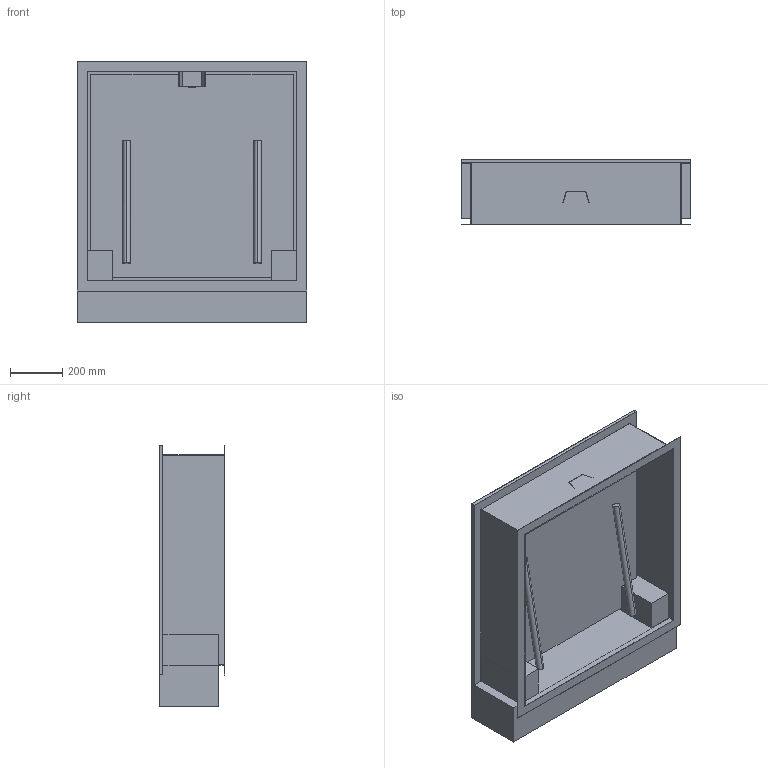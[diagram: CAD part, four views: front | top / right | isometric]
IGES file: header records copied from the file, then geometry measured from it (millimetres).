
Start section:  PTC IGES file: 51553732.igs
Global section: file name: 51553732.igs; native system: Creo Parametric by PTC Inc.; preprocessor: 2019224; author: hrl; organization: Unknown; date: 20201106.105341; units: millimetre
Bounding box: 878 x 250 x 1000 mm (x, y, z)
Surface area: 4220116.6 mm2 (no closed solid volume)
Topology: 0 solids, 0 shells, 74 faces, 384 edges, 384 vertices
Faces by surface type: bspline 64, revolution 10
